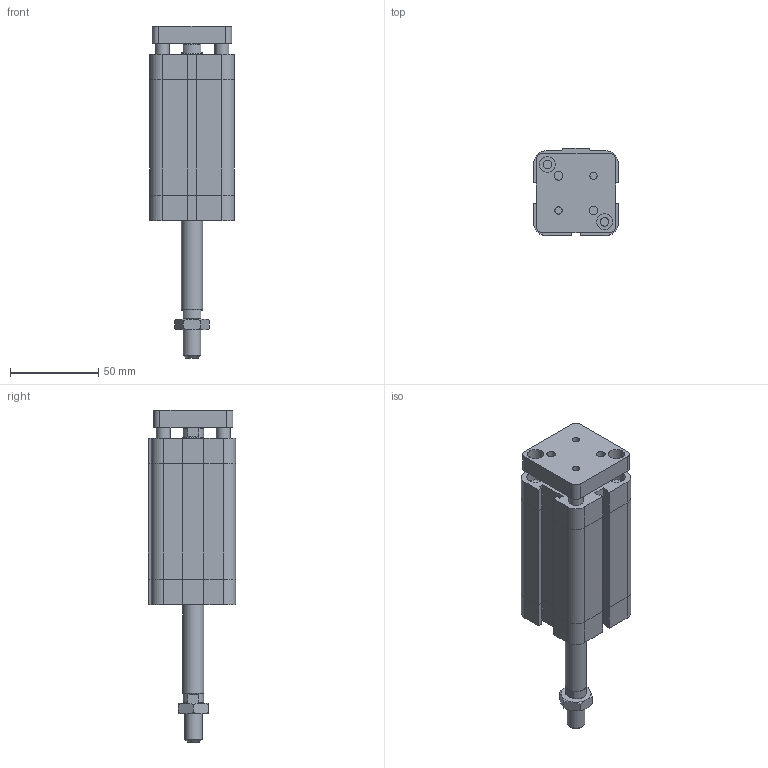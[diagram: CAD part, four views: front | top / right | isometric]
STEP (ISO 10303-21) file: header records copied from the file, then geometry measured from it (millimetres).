
FILE_DESCRIPTION((''),'2;1');
FILE_NAME('I:\Area Tecnica\Disegni\VARIE-3D\Componenti\EUROPE\15##_###_####_09_#\1561_32_0050_09_1.iam.stp','2009-04-20T15:36:11',(''),(''),'Autodesk Inventor 2009','Autodesk Inventor 2009','');
FILE_SCHEMA(('AUTOMOTIVE_DESIGN { 1 0 10303 214 1 1 1 1 }'));
Length unit declared in the file: millimetre
Products named in the file (4): 1561_32_0050_09_1; 1561_32_0050_08_1_C; 1561_32_0050_09_1_SA; DBFM10
Assembly tree (3 placements, depth 2):
  1561_32_0050_09_1
    1561_32_0050_08_1_C
    1561_32_0050_09_1_SA
    DBFM10
Bounding box: 48 x 49.5 x 188.5 mm (x, y, z)
Volume: 226607.5 mm3; surface area: 50667.8 mm2
Topology: 3 solids, 3 shells, 209 faces, 470 edges, 287 vertices
Faces by surface type: plane 120, bspline 45, cylinder 23, cone 21
Full cylindrical faces by diameter (mm): 8 x2, 8.8 x1, 10 x1, 11.7 x2, 12 x1
Entity records: 5963 total; most frequent: CARTESIAN_POINT 1453, DIRECTION 838, ORIENTED_EDGE 834, EDGE_CURVE 417, AXIS2_PLACEMENT_3D 282, EDGE_LOOP 282, VECTOR 274, LINE 274
